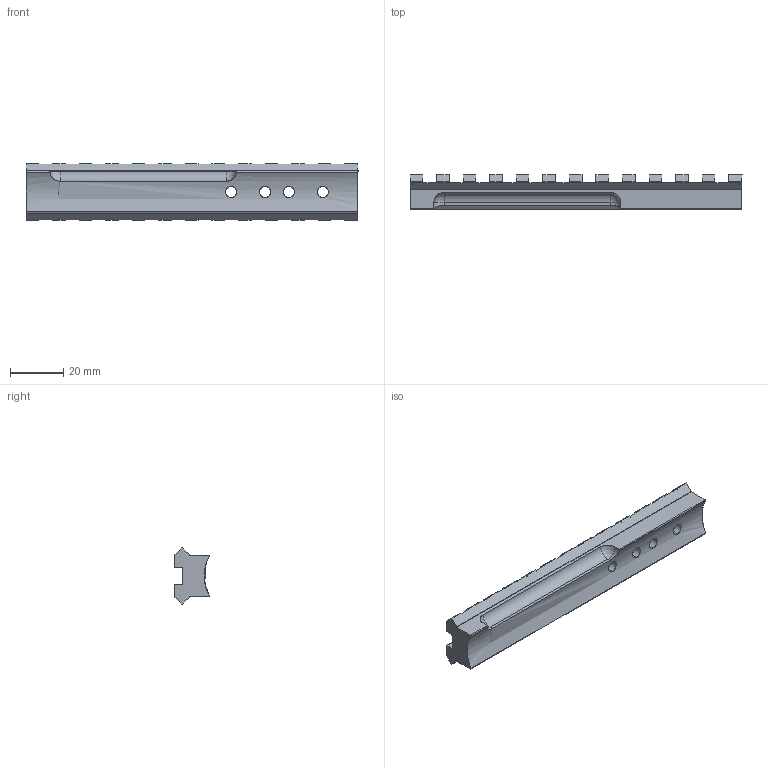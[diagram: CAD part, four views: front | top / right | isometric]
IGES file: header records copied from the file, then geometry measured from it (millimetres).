
Start section: SolidWorks IGES file using analytic representation for surfaces
Global section: file name: C:\Users\owner\Desktop\Savage 340 picitinny top scope mount.IGS; native system: SolidWorks 2008; preprocessor: SolidWorks 2008; author: owner; date: 120527.105734; units: inch
Bounding box: 125.09 x 13.03 x 21.21 mm (x, y, z)
Surface area: 9544.2 mm2 (no closed solid volume)
Topology: 0 solids, 0 shells, 280 faces, 2723 edges, 2718 vertices
Faces by surface type: bspline 171, revolution 109
